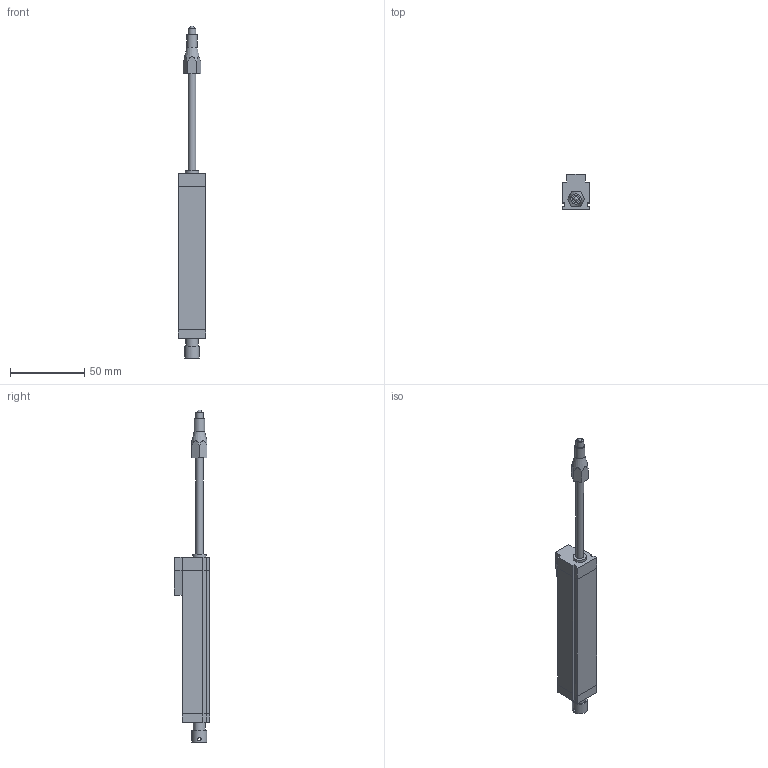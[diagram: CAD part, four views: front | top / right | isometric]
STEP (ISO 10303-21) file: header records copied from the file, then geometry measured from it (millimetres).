
FILE_DESCRIPTION(/* description */ ('','CAx-IF Rec.Pracs.---Representation and Presentation of Product Manufacturing Information (PMI)---3.8---2014-02-18'),/* implementation_level */ '2;1');
FILE_NAME(/* name */ 'C:\Users\JN\Documents\CAD Drawings\The Sensor Connection\3D\LPPS\LPPS-SL-50.stp',/* time_stamp */ '2017-01-05T12:37:11-05:00',/* author */ ('JN'),/* organization */ (''),/* preprocessor_version */ 'ST-DEVELOPER v16.5',/* originating_system */ 'Autodesk Inventor LT',/* authorisation */ '');
FILE_SCHEMA (('AP242_MANAGED_MODEL_BASED_3D_ENGINEERING_MIM_LF { 1 0 10303 442 1 1 4 }'));
Length unit declared in the file: inch
Products named in the file (1): LPPS-SL-50
Bounding box: 18.29 x 23.88 x 223.28 mm (x, y, z)
Volume: 42305.7 mm3; surface area: 14397 mm2
Topology: 5 solids, 5 shells, 78 faces, 189 edges, 125 vertices
Faces by surface type: plane 67, cylinder 9, cone 1, sphere 1
Full cylindrical faces by diameter (mm): 2.388 x2, 5.08 x2, 6.96 x1, 7.206 x1, 8.103 x1, 9.042 x1, 10 x1
Entity records: 2322 total; most frequent: CARTESIAN_POINT 510, ORIENTED_EDGE 336, DIRECTION 331, EDGE_CURVE 168, LINE 141, VECTOR 141, VERTEX_POINT 117, EDGE_LOOP 99
